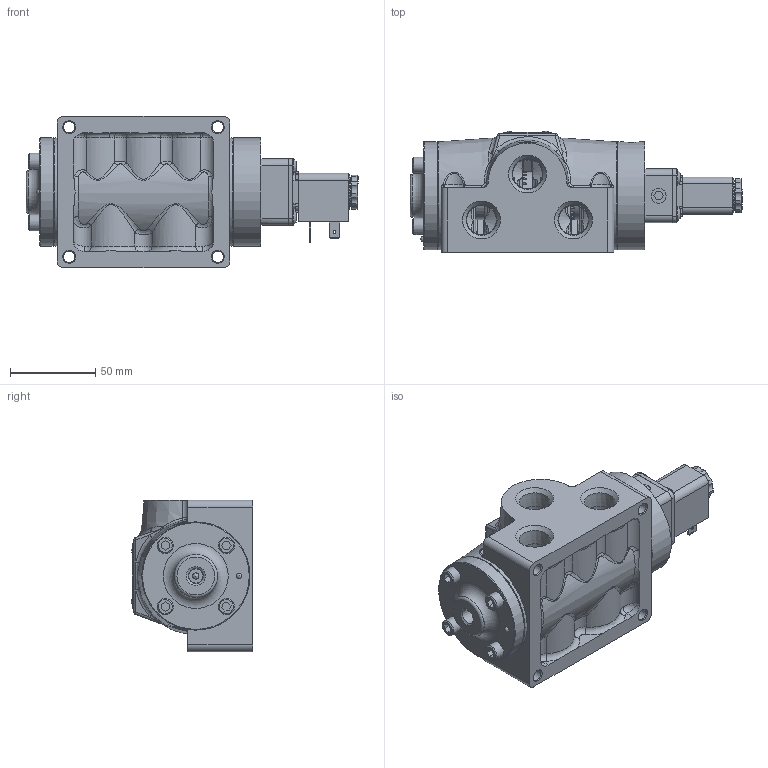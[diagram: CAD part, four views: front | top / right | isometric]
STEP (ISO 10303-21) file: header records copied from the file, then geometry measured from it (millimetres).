
FILE_DESCRIPTION(/* description */ (''),/* implementation_level */ '2;1');
FILE_NAME(/* name */ 'D:\Website Files\stp\Valves\Standard\ESR\ESR4Z.stp',/* time_stamp */ '2019-02-10T12:32:32-05:00',/* author */ ('RMcKenna'),/* organization */ (''),/* preprocessor_version */ 'ST-DEVELOPER v17',/* originating_system */ 'Autodesk Inventor 2018',/* authorisation */ '');
FILE_SCHEMA (('AUTOMOTIVE_DESIGN { 1 0 10303 214 3 1 1 }'));
Products named in the file (1): Part6
Bounding box: 195.03 x 71.2 x 88.9 mm (x, y, z)
Volume: 521518.4 mm3; surface area: 130857.5 mm2
Topology: 1 solids, 35 shells, 2261 faces, 5584 edges, 3531 vertices
Faces by surface type: plane 828, cylinder 556, bspline 351, cone 338, torus 165, sphere 23
Full cylindrical faces by diameter (mm): 1.3 x1, 1.397 x1, 1.5 x2, 1.651 x3, 2.032 x4, 2.07 x2, 2.261 x2, 2.35 x4, 2.388 x1, 2.464 x1, 2.778 x2, 2.8 x1, 2.819 x1, 3 x4, 3.048 x5, 3.175 x2, 3.4 x1, 3.683 x5, 3.962 x2, 3.988 x1, 4.191 x2, 4.305 x1, 4.826 x4, 4.953 x1, 4.978 x8, 5.15 x4, 5.156 x4, 5.5 x1, 6.35 x8, 6.553 x1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
Entity records: 83315 total; most frequent: CARTESIAN_POINT 29400, ORIENTED_EDGE 11074, DIRECTION 10067, EDGE_CURVE 5537, AXIS2_PLACEMENT_3D 3847, VERTEX_POINT 3531, EDGE_LOOP 2522, LINE 2373
